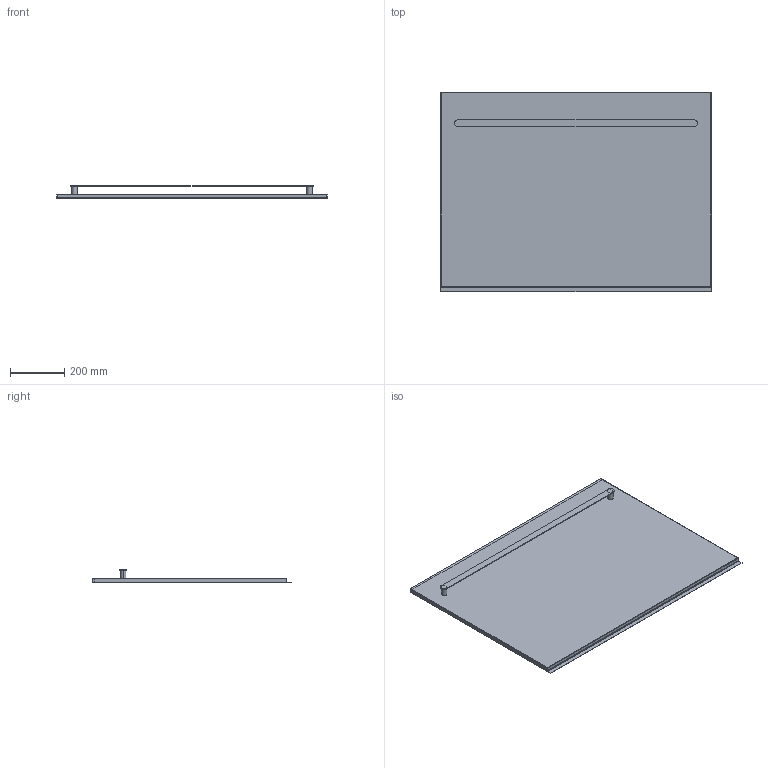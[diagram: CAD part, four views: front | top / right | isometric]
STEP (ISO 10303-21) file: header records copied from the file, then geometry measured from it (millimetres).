
FILE_DESCRIPTION((''),'2;1');
FILE_NAME('CRD_1000_EXPORT_STEP','2017-11-27T',('r.avril'),(''),'PRO/ENGINEER BY PARAMETRIC TECHNOLOGY CORPORATION, 2014200','PRO/ENGINEER BY PARAMETRIC TECHNOLOGY CORPORATION, 2014200','');
FILE_SCHEMA(('AP203_CONFIGURATION_CONTROLLED_3D_DESIGN_OF_MECHANICAL_PARTS_AND_ASSEMBLIES_MIM_LF { 1 0 10303 403 2 1 2 }'));
Length unit declared in the file: millimetre
Products named in the file (1): CRD_1000_EXPORT_STEP
Bounding box: 1000 x 739 x 48 mm (x, y, z)
Volume: 996372.4 mm3; surface area: 1625917 mm2
Topology: 1 solids, 1 shells, 39 faces, 86 edges, 52 vertices
Faces by surface type: plane 17, cylinder 16, sphere 4, torus 2
Entity records: 1444 total; most frequent: CARTESIAN_POINT 222, DIRECTION 218, ORIENTED_EDGE 172, EDGE_CURVE 86, AXIS2_PLACEMENT_3D 79, VECTOR 57, LINE 57, VERTEX_POINT 52
